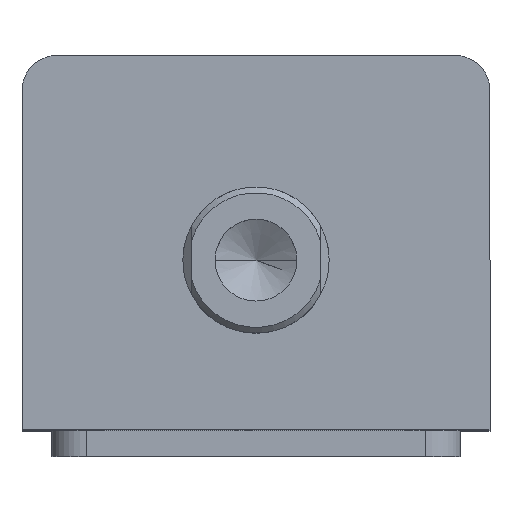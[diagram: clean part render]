
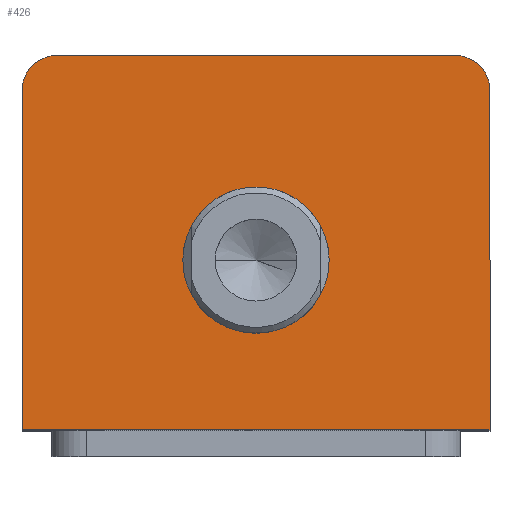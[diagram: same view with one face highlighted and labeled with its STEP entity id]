
A CAD part, top view. The second image highlights one B-rep face of the part: STEP entity #426.
In plain terms, the highlighted planar face has unit normal (0, 0, 1).
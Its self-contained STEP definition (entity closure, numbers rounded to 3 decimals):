
#1 = ORIENTED_EDGE ( 'NONE', *, *, #2226, .T. ) ;
#138 = LINE ( 'NONE', #824, #141 ) ;
#141 = VECTOR ( 'NONE', #821, 1000. ) ;
#156 = LINE ( 'NONE', #2983, #159 ) ;
#159 = VECTOR ( 'NONE', #2981, 1000. ) ;
#165 = CIRCLE ( 'NONE', #2412, 6. ) ;
#176 = CIRCLE ( 'NONE', #2419, 6. ) ;
#182 = LINE ( 'NONE', #2894, #185 ) ;
#185 = VECTOR ( 'NONE', #2893, 1000. ) ;
#208 = CIRCLE ( 'NONE', #2421, 12.5 ) ;
#270 = LINE ( 'NONE', #2616, #273 ) ;
#273 = VECTOR ( 'NONE', #2615, 1000. ) ;
#318 = EDGE_LOOP ( 'NONE', ( #1294, #356, #324, #2830, #1, #2692 ) ) ;
#324 = ORIENTED_EDGE ( 'NONE', *, *, #2247, .T. ) ;
#356 = ORIENTED_EDGE ( 'NONE', *, *, #2243, .T. ) ;
#426 = ADVANCED_FACE ( 'NONE', ( #1809, #1813 ), #3362, .T. ) ;
#534 = CIRCLE ( 'NONE', #2468, 12.5 ) ;
#803 = CARTESIAN_POINT ( 'NONE',  ( -40., 26., 150. ) ) ;
#821 = DIRECTION ( 'NONE',  ( 1., 0., 0. ) ) ;
#824 = CARTESIAN_POINT ( 'NONE',  ( -40., -32., 150. ) ) ;
#1056 = EDGE_CURVE ( 'NONE', #2072, #2075, #138, .T. ) ;
#1294 = ORIENTED_EDGE ( 'NONE', *, *, #2806, .T. ) ;
#1295 = ORIENTED_EDGE ( 'NONE', *, *, #3523, .F. ) ;
#1296 = ORIENTED_EDGE ( 'NONE', *, *, #2268, .F. ) ;
#1809 = FACE_BOUND ( 'NONE', #1904, .T. ) ;
#1813 = FACE_OUTER_BOUND ( 'NONE', #318, .T. ) ;
#1904 = EDGE_LOOP ( 'NONE', ( #1296, #1295 ) ) ;
#1947 = VERTEX_POINT ( 'NONE', #803 ) ;
#1988 = VERTEX_POINT ( 'NONE', #3083 ) ;
#2067 = VERTEX_POINT ( 'NONE', #3063 ) ;
#2071 = VERTEX_POINT ( 'NONE', #3059 ) ;
#2072 = VERTEX_POINT ( 'NONE', #3058 ) ;
#2075 = VERTEX_POINT ( 'NONE', #3054 ) ;
#2096 = VERTEX_POINT ( 'NONE', #3032 ) ;
#2101 = VERTEX_POINT ( 'NONE', #3024 ) ;
#2226 = EDGE_CURVE ( 'NONE', #2075, #1988, #156, .T. ) ;
#2234 = EDGE_CURVE ( 'NONE', #1988, #2096, #165, .T. ) ;
#2243 = EDGE_CURVE ( 'NONE', #2101, #1947, #176, .T. ) ;
#2247 = EDGE_CURVE ( 'NONE', #1947, #2072, #182, .T. ) ;
#2268 = EDGE_CURVE ( 'NONE', #2071, #2067, #208, .T. ) ;
#2319 = AXIS2_PLACEMENT_3D ( 'NONE', #3367, #3360, #3359 ) ;
#2412 = AXIS2_PLACEMENT_3D ( 'NONE', #2948, #2947, #2945 ) ;
#2419 = AXIS2_PLACEMENT_3D ( 'NONE', #2909, #2908, #2906 ) ;
#2421 = AXIS2_PLACEMENT_3D ( 'NONE', #2860, #2859, #2858 ) ;
#2468 = AXIS2_PLACEMENT_3D ( 'NONE', #2763, #2759, #2758 ) ;
#2615 = DIRECTION ( 'NONE',  ( -1., 0., 0. ) ) ;
#2616 = CARTESIAN_POINT ( 'NONE',  ( -40., 32., 150. ) ) ;
#2692 = ORIENTED_EDGE ( 'NONE', *, *, #2234, .T. ) ;
#2758 = DIRECTION ( 'NONE',  ( 1., 0., 0. ) ) ;
#2759 = DIRECTION ( 'NONE',  ( 0., 0., 1. ) ) ;
#2763 = CARTESIAN_POINT ( 'NONE',  ( 0., -3., 150. ) ) ;
#2806 = EDGE_CURVE ( 'NONE', #2096, #2101, #270, .T. ) ;
#2830 = ORIENTED_EDGE ( 'NONE', *, *, #1056, .T. ) ;
#2858 = DIRECTION ( 'NONE',  ( 1., 0., 0. ) ) ;
#2859 = DIRECTION ( 'NONE',  ( 0., 0., 1. ) ) ;
#2860 = CARTESIAN_POINT ( 'NONE',  ( 0., -3., 150. ) ) ;
#2893 = DIRECTION ( 'NONE',  ( 0., -1., 0. ) ) ;
#2894 = CARTESIAN_POINT ( 'NONE',  ( -40., 32., 150. ) ) ;
#2906 = DIRECTION ( 'NONE',  ( 1., 0., 0. ) ) ;
#2908 = DIRECTION ( 'NONE',  ( 0., 0., 1. ) ) ;
#2909 = CARTESIAN_POINT ( 'NONE',  ( -34., 26., 150. ) ) ;
#2945 = DIRECTION ( 'NONE',  ( 1., 0., 0. ) ) ;
#2947 = DIRECTION ( 'NONE',  ( 0., 0., 1. ) ) ;
#2948 = CARTESIAN_POINT ( 'NONE',  ( 34., 26., 150. ) ) ;
#2981 = DIRECTION ( 'NONE',  ( 0., 1., 0. ) ) ;
#2983 = CARTESIAN_POINT ( 'NONE',  ( 40., 32., 150. ) ) ;
#3024 = CARTESIAN_POINT ( 'NONE',  ( -34., 32., 150. ) ) ;
#3032 = CARTESIAN_POINT ( 'NONE',  ( 34., 32., 150. ) ) ;
#3054 = CARTESIAN_POINT ( 'NONE',  ( 40., -32., 150. ) ) ;
#3058 = CARTESIAN_POINT ( 'NONE',  ( -40., -32., 150. ) ) ;
#3059 = CARTESIAN_POINT ( 'NONE',  ( 12.5, -3., 150. ) ) ;
#3063 = CARTESIAN_POINT ( 'NONE',  ( -12.5, -3., 150. ) ) ;
#3083 = CARTESIAN_POINT ( 'NONE',  ( 40., 26., 150. ) ) ;
#3359 = DIRECTION ( 'NONE',  ( 1., 0., 0. ) ) ;
#3360 = DIRECTION ( 'NONE',  ( 0., 0., 1. ) ) ;
#3362 = PLANE ( 'NONE',  #2319 ) ;
#3367 = CARTESIAN_POINT ( 'NONE',  ( 0., 0., 150. ) ) ;
#3523 = EDGE_CURVE ( 'NONE', #2067, #2071, #534, .T. ) ;
